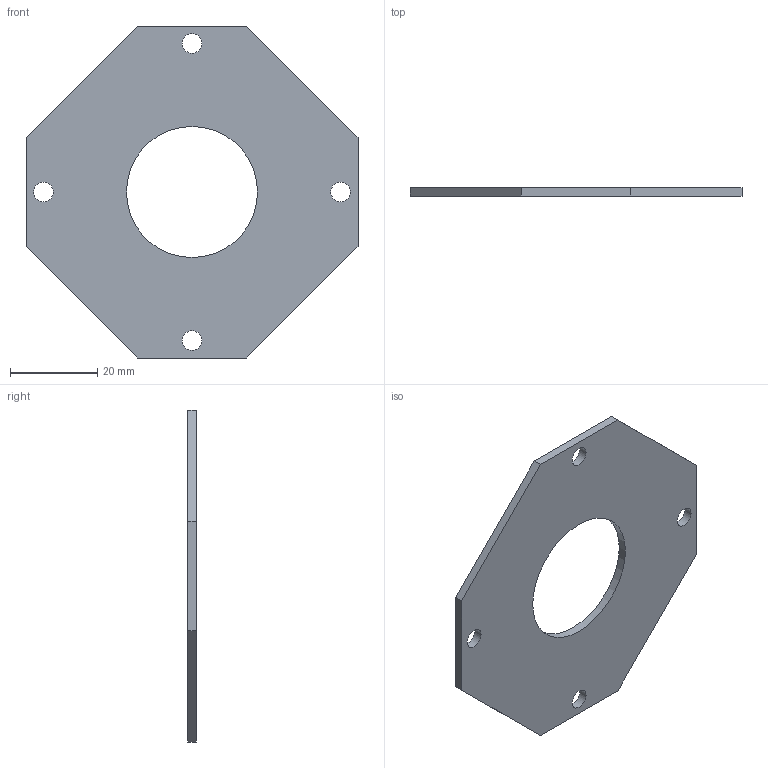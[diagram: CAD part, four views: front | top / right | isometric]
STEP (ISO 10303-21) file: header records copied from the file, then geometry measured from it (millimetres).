
FILE_DESCRIPTION(/* description */ (''),/* implementation_level */ '2;1');
FILE_NAME(/* name */ '',/* time_stamp */ '2026-05-08T17:29:06+08:00',/* author */ ('32769'),/* organization */ (''),/* preprocessor_version */ 'ST-DEVELOPER v20',/* originating_system */ 'Autodesk Inventor 2025',/* authorisation */ '');
FILE_SCHEMA (('AUTOMOTIVE_DESIGN { 1 0 10303 214 3 1 1 }'));
Length unit declared in the file: millimetre
Products named in the file (1): bottom-resonator copy
Bounding box: 76 x 2 x 76 mm (x, y, z)
Volume: 7410 mm3; surface area: 8200.1 mm2
Topology: 1 solids, 1 shells, 15 faces, 48 edges, 45 vertices
Faces by surface type: plane 10, cylinder 5
Full cylindrical faces by diameter (mm): 4.5 x4, 30 x1
Entity records: 575 total; most frequent: CARTESIAN_POINT 100, DIRECTION 83, ORIENTED_EDGE 78, EDGE_CURVE 39, LINE 29, VECTOR 29, AXIS2_PLACEMENT_3D 27, VERTEX_POINT 26
